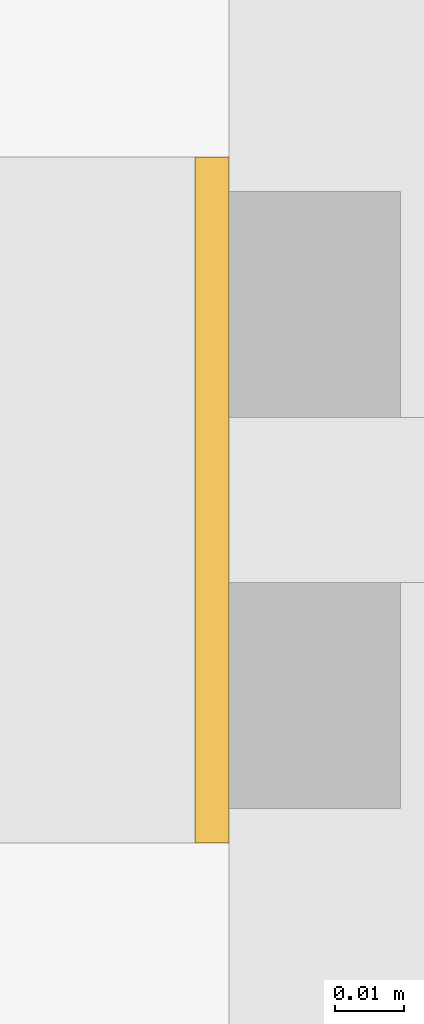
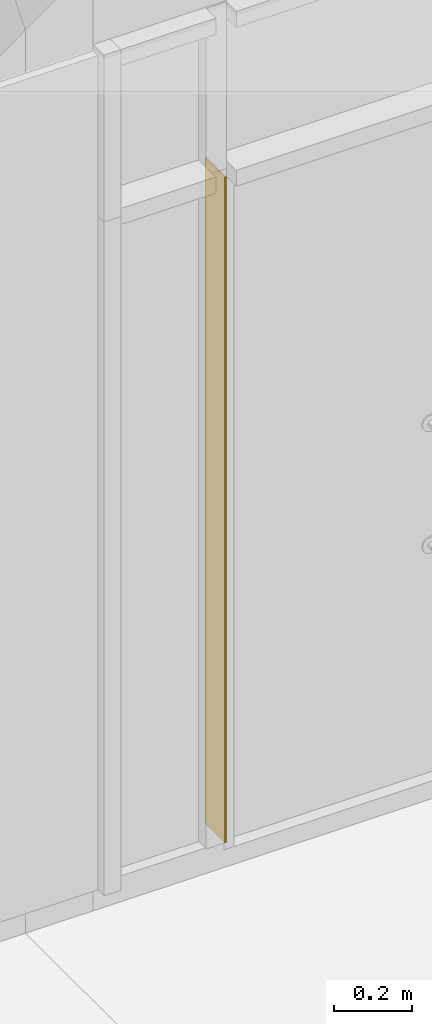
# One storey, part 71 of 81: 1 curtain wall, 1 element without a shape of its own.
"""IFC2X3 building model written with IfcOpenShell, lengths in millimetres."""

from ifc_helpers import new_model, entity, si_unit, converted_unit, derived_unit, direction, frame, frame_2d, origin, place, context, subcontext, project, spatial, rectangle, extrude, material, layer, layer_set, layer_usage, type_object, element, aggregate, save


model = new_model("IFC2X3")

# Units and contexts
model_context = context("Model", 3, precision=0.01, world=origin(), true_north=direction((6.123031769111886e-17, 1.0)))
body_context = subcontext(model_context, "Body", "Model", "MODEL_VIEW")
ifc_project = project(units=[si_unit("LENGTHUNIT", "METRE", prefix="MILLI"), si_unit("AREAUNIT", "SQUARE_METRE"), si_unit("VOLUMEUNIT", "CUBIC_METRE"), converted_unit("PLANEANGLEUNIT", "DEGREE", entity("IfcRatioMeasure", 0.017453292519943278), si_unit("PLANEANGLEUNIT", "RADIAN"), dimensions=[0, 0, 0, 0, 0, 0, 0]), si_unit("MASSUNIT", "GRAM", prefix="KILO"), derived_unit("MASSDENSITYUNIT", [(si_unit("MASSUNIT", "GRAM", prefix="KILO"), 1), (si_unit("LENGTHUNIT", "METRE"), -3)]), derived_unit("MOMENTOFINERTIAUNIT", [(si_unit("LENGTHUNIT", "METRE"), 4)]), si_unit("TIMEUNIT", "SECOND"), si_unit("FREQUENCYUNIT", "HERTZ"), si_unit("THERMODYNAMICTEMPERATUREUNIT", "DEGREE_CELSIUS"), derived_unit("THERMALTRANSMITTANCEUNIT", [(si_unit("MASSUNIT", "GRAM", prefix="KILO"), 1), (si_unit("THERMODYNAMICTEMPERATUREUNIT", "KELVIN"), -1), (si_unit("TIMEUNIT", "SECOND"), -3)]), derived_unit("VOLUMETRICFLOWRATEUNIT", [(si_unit("LENGTHUNIT", "METRE"), 3), (si_unit("TIMEUNIT", "SECOND"), -1)]), derived_unit("MASSFLOWRATEUNIT", [(si_unit("MASSUNIT", "GRAM", prefix="KILO"), 1), (si_unit("TIMEUNIT", "SECOND"), -1)]), derived_unit("ROTATIONALFREQUENCYUNIT", [(si_unit("TIMEUNIT", "SECOND"), -1)]), si_unit("ELECTRICCURRENTUNIT", "AMPERE"), si_unit("ELECTRICVOLTAGEUNIT", "VOLT"), si_unit("POWERUNIT", "WATT"), si_unit("FORCEUNIT", "NEWTON", prefix="KILO"), si_unit("ILLUMINANCEUNIT", "LUX"), si_unit("LUMINOUSFLUXUNIT", "LUMEN"), si_unit("LUMINOUSINTENSITYUNIT", "CANDELA"), derived_unit("USERDEFINED", [(si_unit("MASSUNIT", "GRAM", prefix="KILO"), -1), (si_unit("LENGTHUNIT", "METRE"), -2), (si_unit("TIMEUNIT", "SECOND"), 3), (si_unit("LUMINOUSFLUXUNIT", "LUMEN"), 1)]), derived_unit("SOUNDPOWERUNIT", [(si_unit("MASSUNIT", "GRAM", prefix="KILO"), 1), (si_unit("LENGTHUNIT", "METRE"), 2), (si_unit("TIMEUNIT", "SECOND"), -3)]), derived_unit("SOUNDPRESSUREUNIT", [(si_unit("MASSUNIT", "GRAM", prefix="KILO"), 1), (si_unit("LENGTHUNIT", "METRE"), -1), (si_unit("TIMEUNIT", "SECOND"), -2)]), derived_unit("LINEARVELOCITYUNIT", [(si_unit("LENGTHUNIT", "METRE"), 1), (si_unit("TIMEUNIT", "SECOND"), -1)]), si_unit("PRESSUREUNIT", "PASCAL"), derived_unit("USERDEFINED", [(si_unit("LENGTHUNIT", "METRE"), -2), (si_unit("MASSUNIT", "GRAM", prefix="KILO"), 1), (si_unit("TIMEUNIT", "SECOND"), -2)]), derived_unit("LINEARFORCEUNIT", [(si_unit("MASSUNIT", "GRAM", prefix="KILO"), 1), (si_unit("LENGTHUNIT", "METRE"), 1), (si_unit("TIMEUNIT", "SECOND"), -2), (si_unit("LENGTHUNIT", "METRE"), -1)]), derived_unit("PLANARFORCEUNIT", [(si_unit("MASSUNIT", "GRAM", prefix="KILO"), 1), (si_unit("LENGTHUNIT", "METRE"), 1), (si_unit("TIMEUNIT", "SECOND"), -2), (si_unit("LENGTHUNIT", "METRE"), -2)])], contexts=[model_context])

# Site, building, storey
site_placement = place(None, frame((-14167.972527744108, -657.2125860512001, 0.0)))
site = spatial("IfcSite", under=ifc_project, at=site_placement, Name="Default", CompositionType="ELEMENT")
building_placement = place(site_placement, origin())
building = spatial("IfcBuilding", under=site, at=building_placement, Name="Sample Building", CompositionType="ELEMENT")
storey_placement = place(building_placement, frame((0.0, 0.0, 13400.0)))
storey = spatial("IfcBuildingStorey", under=building, at=storey_placement, Name="지상 4층", CompositionType="ELEMENT", Elevation=13400.00000000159)

# Curtain walls
curtain_wall_type_1 = type_object("IfcCurtainWallType", Name="커튼월:CW112-스테인리스 스틸 커튼월", PredefinedType="NOTDEFINED")
curtain_wall_1_placement = place(storey_placement, frame((0.0, 0.0, -13400.0)))
curtain_wall_1 = element("IfcCurtainWall", 1, at=curtain_wall_1_placement, inside=storey, type_object=curtain_wall_type_1, Name="커튼월:CW112-스테인리스 스틸 커튼월", ObjectType="커튼월:CW112-스테인리스 스틸 커튼월")
ifc_material = material(Name="KBIMS-콘크리트")
ifc_layer = layer(ifc_material, 100.0)
ifc_layer_set = layer_set([ifc_layer], Name="커튼월:CW112-스테인리스 스틸 커튼월")
ifc_layer_usage = layer_usage(ifc_layer_set, "AXIS2", "NEGATIVE", 50.0)
curtain_wall_type_2 = type_object("IfcCurtainWallType", Name="기본 벽:WA111-철근콘크리트구조 벽 100mm", PredefinedType="NOTDEFINED", material=ifc_layer_set)
curtain_wall_2_placement = place(storey_placement, frame((41357.972491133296, 15602.21258605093, 80.0), z_axis=(0.0, 0.0, 1.0), x_axis=(-1.0, 0.0, 0.0)))
curtain_wall_2 = element("IfcCurtainWall", 2, at=curtain_wall_2_placement, type_object=curtain_wall_type_2, material=ifc_layer_usage, Name="기본 벽:WA111-철근콘크리트구조 벽 100mm", ObjectType="기본 벽:WA111-철근콘크리트구조 벽 100mm", context=body_context, shape_type="SweptSolid", body=[
    extrude(rectangle(XDim=5.000000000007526, YDim=99.99999999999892, at=frame_2d((2.500000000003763, 7.105427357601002e-15), x_axis=(-1.0, 0.0))), origin(), (0.0, 0.0, 1.0), 2075.0000000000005),
])
aggregate(curtain_wall_1, [curtain_wall_2])

save(model, "model.ifc")
